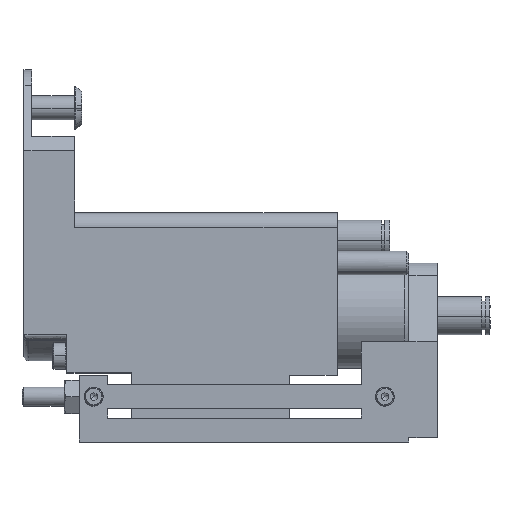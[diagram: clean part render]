
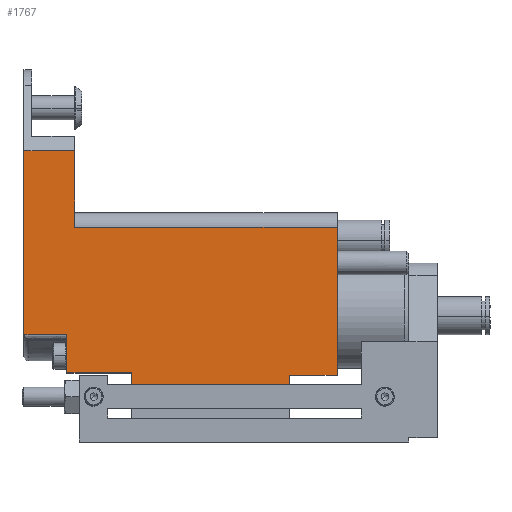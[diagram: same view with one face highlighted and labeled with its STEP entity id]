
A CAD part, top view. The second image highlights one B-rep face of the part: STEP entity #1767.
In plain terms, the highlighted free-form (B-spline) face has degree [1, 1] with [2, 2] control points.
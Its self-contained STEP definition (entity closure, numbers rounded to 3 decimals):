
#1767=ADVANCED_FACE('',(#3700),#3701,.T.);
#3700=FACE_OUTER_BOUND('',#9488,.T.);
#3701=B_SPLINE_SURFACE_WITH_KNOTS('',1,1,((#9489,#9490),(#9491,#9492)),.UNSPECIFIED.,.F.,.F.,.F.,(2,2),(2,2),(0.0,53.895),(0.0,72.153),.UNSPECIFIED.);
#9488=EDGE_LOOP('',(#14901,#14902,#14903,#14904,#14905,#14906,#14907,#14908,#14909,#14910,#14911,#14912));
#9489=CARTESIAN_POINT('',(69.197,6.015,22.675));
#9490=CARTESIAN_POINT('',(-2.956,6.015,22.675));
#9491=CARTESIAN_POINT('',(69.197,59.91,22.675));
#9492=CARTESIAN_POINT('',(-2.956,59.91,22.675));
#14901=ORIENTED_EDGE('',*,*,#18055,.T.);
#14902=ORIENTED_EDGE('',*,*,#17816,.T.);
#14903=ORIENTED_EDGE('',*,*,#18026,.T.);
#14904=ORIENTED_EDGE('',*,*,#17667,.F.);
#14905=ORIENTED_EDGE('',*,*,#17252,.F.);
#14906=ORIENTED_EDGE('',*,*,#17889,.F.);
#14907=ORIENTED_EDGE('',*,*,#18039,.T.);
#14908=ORIENTED_EDGE('',*,*,#17540,.T.);
#14909=ORIENTED_EDGE('',*,*,#18041,.F.);
#14910=ORIENTED_EDGE('',*,*,#17869,.T.);
#14911=ORIENTED_EDGE('',*,*,#17294,.F.);
#14912=ORIENTED_EDGE('',*,*,#17457,.T.);
#17252=EDGE_CURVE('',#20286,#20287,#20288,.T.);
#17294=EDGE_CURVE('',#20364,#20366,#20367,.T.);
#17457=EDGE_CURVE('',#20364,#20652,#20655,.T.);
#17540=EDGE_CURVE('',#20805,#20803,#20806,.T.);
#17667=EDGE_CURVE('',#20287,#21018,#21019,.T.);
#17816=EDGE_CURVE('',#21240,#21241,#21242,.T.);
#17869=EDGE_CURVE('',#21319,#20366,#21320,.T.);
#17889=EDGE_CURVE('',#21348,#20286,#21350,.T.);
#18026=EDGE_CURVE('',#21241,#21018,#21517,.T.);
#18039=EDGE_CURVE('',#21348,#20805,#21536,.T.);
#18041=EDGE_CURVE('',#21319,#20803,#21538,.T.);
#18055=EDGE_CURVE('',#20652,#21240,#21552,.T.);
#20286=VERTEX_POINT('',#28652);
#20287=VERTEX_POINT('',#28653);
#20288=B_SPLINE_CURVE_WITH_KNOTS('',1,(#28654,#28655),.UNSPECIFIED.,.F.,.F.,(2,2),(0.0,1.0),.UNSPECIFIED.);
#20364=VERTEX_POINT('',#28896);
#20366=VERTEX_POINT('',#28899);
#20367=B_SPLINE_CURVE_WITH_KNOTS('',1,(#28900,#28901),.UNSPECIFIED.,.F.,.F.,(2,2),(0.0,1.0),.UNSPECIFIED.);
#20652=VERTEX_POINT('',#29848);
#20655=B_SPLINE_CURVE_WITH_KNOTS('',1,(#29860,#29861),.UNSPECIFIED.,.F.,.F.,(2,2),(0.0,1.0),.UNSPECIFIED.);
#20803=VERTEX_POINT('',#30535);
#20805=VERTEX_POINT('',#30538);
#20806=B_SPLINE_CURVE_WITH_KNOTS('',1,(#30539,#30540),.UNSPECIFIED.,.F.,.F.,(2,2),(0.0,1.0),.UNSPECIFIED.);
#21018=VERTEX_POINT('',#31194);
#21019=B_SPLINE_CURVE_WITH_KNOTS('',1,(#31195,#31196),.UNSPECIFIED.,.F.,.F.,(2,2),(0.0,1.0),.UNSPECIFIED.);
#21240=VERTEX_POINT('',#31960);
#21241=VERTEX_POINT('',#31961);
#21242=B_SPLINE_CURVE_WITH_KNOTS('',1,(#31962,#31963),.UNSPECIFIED.,.F.,.F.,(2,2),(0.0,1.0),.UNSPECIFIED.);
#21319=VERTEX_POINT('',#32161);
#21320=B_SPLINE_CURVE_WITH_KNOTS('',1,(#32162,#32163),.UNSPECIFIED.,.F.,.F.,(2,2),(0.0,1.0),.UNSPECIFIED.);
#21348=VERTEX_POINT('',#32261);
#21350=B_SPLINE_CURVE_WITH_KNOTS('',1,(#32264,#32265),.UNSPECIFIED.,.F.,.F.,(2,2),(0.0,1.0),.UNSPECIFIED.);
#21517=B_SPLINE_CURVE_WITH_KNOTS('',1,(#32688,#32689),.UNSPECIFIED.,.F.,.F.,(2,2),(0.0,1.0),.UNSPECIFIED.);
#21536=B_SPLINE_CURVE_WITH_KNOTS('',1,(#32797,#32798),.UNSPECIFIED.,.F.,.F.,(2,2),(0.0,1.0),.UNSPECIFIED.);
#21538=B_SPLINE_CURVE_WITH_KNOTS('',1,(#32800,#32801),.UNSPECIFIED.,.F.,.F.,(2,2),(0.0,1.0),.UNSPECIFIED.);
#21552=B_SPLINE_CURVE_WITH_KNOTS('',1,(#32829,#32830),.UNSPECIFIED.,.F.,.F.,(2,2),(0.0,1.0),.UNSPECIFIED.);
#28652=CARTESIAN_POINT('',(9.32,18.963,22.675));
#28653=CARTESIAN_POINT('',(0.32,18.963,22.675));
#28654=CARTESIAN_POINT('',(9.32,18.963,22.675));
#28655=CARTESIAN_POINT('',(0.32,18.963,22.675));
#28896=CARTESIAN_POINT('',(65.92,10.463,22.675));
#28899=CARTESIAN_POINT('',(55.92,10.463,22.675));
#28900=CARTESIAN_POINT('',(65.92,10.463,22.675));
#28901=CARTESIAN_POINT('',(55.92,10.463,22.675));
#29848=CARTESIAN_POINT('',(65.92,41.463,22.675));
#29860=CARTESIAN_POINT('',(65.92,10.463,22.675));
#29861=CARTESIAN_POINT('',(65.92,41.463,22.675));
#30535=CARTESIAN_POINT('',(22.92,8.463,22.675));
#30538=CARTESIAN_POINT('',(22.92,10.963,22.675));
#30539=CARTESIAN_POINT('',(22.92,10.963,22.675));
#30540=CARTESIAN_POINT('',(22.92,8.463,22.675));
#31194=CARTESIAN_POINT('',(0.32,57.463,22.675));
#31195=CARTESIAN_POINT('',(0.32,18.963,22.675));
#31196=CARTESIAN_POINT('',(0.32,57.463,22.675));
#31960=CARTESIAN_POINT('',(10.92,41.463,22.675));
#31961=CARTESIAN_POINT('',(10.92,57.463,22.675));
#31962=CARTESIAN_POINT('',(10.92,41.463,22.675));
#31963=CARTESIAN_POINT('',(10.92,57.463,22.675));
#32161=CARTESIAN_POINT('',(55.92,8.463,22.675));
#32162=CARTESIAN_POINT('',(55.92,8.463,22.675));
#32163=CARTESIAN_POINT('',(55.92,10.463,22.675));
#32261=CARTESIAN_POINT('',(9.32,10.963,22.675));
#32264=CARTESIAN_POINT('',(9.32,10.963,22.675));
#32265=CARTESIAN_POINT('',(9.32,18.963,22.675));
#32688=CARTESIAN_POINT('',(10.92,57.463,22.675));
#32689=CARTESIAN_POINT('',(0.32,57.463,22.675));
#32797=CARTESIAN_POINT('',(9.32,10.963,22.675));
#32798=CARTESIAN_POINT('',(22.92,10.963,22.675));
#32800=CARTESIAN_POINT('',(55.92,8.463,22.675));
#32801=CARTESIAN_POINT('',(22.92,8.463,22.675));
#32829=CARTESIAN_POINT('',(65.92,41.463,22.675));
#32830=CARTESIAN_POINT('',(10.92,41.463,22.675));
